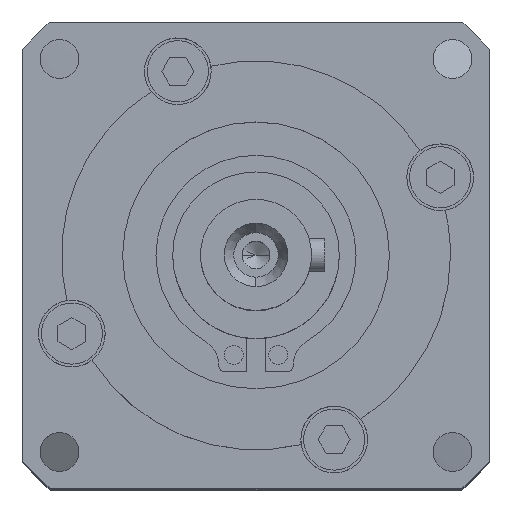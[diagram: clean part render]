
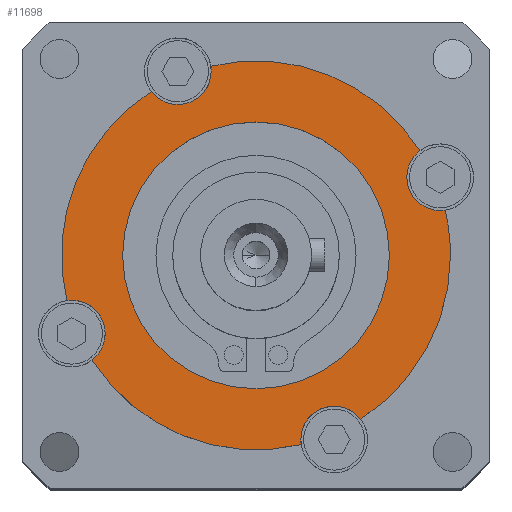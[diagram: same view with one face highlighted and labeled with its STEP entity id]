
A CAD part, top view. The second image highlights one B-rep face of the part: STEP entity #11698.
In plain terms, the highlighted planar face has unit normal (0, 0, 1).
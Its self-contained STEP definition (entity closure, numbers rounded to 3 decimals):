
#320 = DIRECTION ( 'NONE',  ( 0., 0., -1. ) ) ;
#1158 = DIRECTION ( 'NONE',  ( 1., 0., 0. ) ) ;
#1168 = EDGE_CURVE ( 'NONE', #11699, #7684, #3636, .T. ) ;
#1185 = DIRECTION ( 'NONE',  ( 0., 0., -1. ) ) ;
#1214 = CARTESIAN_POINT ( 'NONE',  ( 0., 0., 0. ) ) ;
#1428 = AXIS2_PLACEMENT_3D ( 'NONE', #23193, #11641, #25038 ) ;
#1882 = DIRECTION ( 'NONE',  ( 0., 0., 1. ) ) ;
#1905 = VERTEX_POINT ( 'NONE', #3082 ) ;
#2142 = ORIENTED_EDGE ( 'NONE', *, *, #22773, .T. ) ;
#2365 = EDGE_CURVE ( 'NONE', #15420, #23116, #24178, .T. ) ;
#2667 = CIRCLE ( 'NONE', #19940, 3. ) ;
#3082 = CARTESIAN_POINT ( 'NONE',  ( -12., 0., 0. ) ) ;
#3301 = DIRECTION ( 'NONE',  ( 1., 0., 0. ) ) ;
#3366 = DIRECTION ( 'NONE',  ( 0., 0., -1. ) ) ;
#3391 = CARTESIAN_POINT ( 'NONE',  ( 0., 0., 0. ) ) ;
#3636 = CIRCLE ( 'NONE', #11657, 17.5 ) ;
#3810 = PLANE ( 'NONE',  #19667 ) ;
#4169 = FACE_BOUND ( 'NONE', #16544, .T. ) ;
#4311 = DIRECTION ( 'NONE',  ( 0., 0., -1. ) ) ;
#5143 = CARTESIAN_POINT ( 'NONE',  ( 13.569, 7.033, 0. ) ) ;
#5252 = CARTESIAN_POINT ( 'NONE',  ( 0., 0., 0. ) ) ;
#5738 = EDGE_CURVE ( 'NONE', #15420, #7414, #22810, .T. ) ;
#6340 = VERTEX_POINT ( 'NONE', #22666 ) ;
#6440 = DIRECTION ( 'NONE',  ( 0., 0., -1. ) ) ;
#6610 = VERTEX_POINT ( 'NONE', #16170 ) ;
#7111 = VERTEX_POINT ( 'NONE', #5143 ) ;
#7198 = DIRECTION ( 'NONE',  ( 1., 0., 0. ) ) ;
#7414 = VERTEX_POINT ( 'NONE', #16133 ) ;
#7424 = ORIENTED_EDGE ( 'NONE', *, *, #13361, .T. ) ;
#7638 = VERTEX_POINT ( 'NONE', #20872 ) ;
#7684 = VERTEX_POINT ( 'NONE', #11284 ) ;
#8408 = CARTESIAN_POINT ( 'NONE',  ( -16.569, -7.033, 0. ) ) ;
#8702 = ORIENTED_EDGE ( 'NONE', *, *, #19033, .F. ) ;
#8731 = DIRECTION ( 'NONE',  ( 0., 0., 1. ) ) ;
#8773 = FACE_OUTER_BOUND ( 'NONE', #9087, .T. ) ;
#9087 = EDGE_LOOP ( 'NONE', ( #19882, #11726, #16831, #8702, #13914, #9401, #16707, #22036, #19063, #2142, #11414, #23018, #7424 ) ) ;
#9152 = CARTESIAN_POINT ( 'NONE',  ( -16.569, -7.033, 0. ) ) ;
#9395 = CARTESIAN_POINT ( 'NONE',  ( -4.033, 16.569, 0. ) ) ;
#9401 = ORIENTED_EDGE ( 'NONE', *, *, #24992, .T. ) ;
#9665 = DIRECTION ( 'NONE',  ( 0., 0., -1. ) ) ;
#9767 = CARTESIAN_POINT ( 'NONE',  ( 0., 12., 0. ) ) ;
#9786 = AXIS2_PLACEMENT_3D ( 'NONE', #10593, #24083, #12635 ) ;
#10072 = CIRCLE ( 'NONE', #12674, 3. ) ;
#10162 = ORIENTED_EDGE ( 'NONE', *, *, #15616, .F. ) ;
#10175 = DIRECTION ( 'NONE',  ( -1., 0., 0. ) ) ;
#10260 = DIRECTION ( 'NONE',  ( 0., 0., -1. ) ) ;
#10290 = CARTESIAN_POINT ( 'NONE',  ( -7.033, 16.569, 0. ) ) ;
#10340 = AXIS2_PLACEMENT_3D ( 'NONE', #12035, #320, #14036 ) ;
#10359 = CIRCLE ( 'NONE', #16669, 3. ) ;
#10364 = DIRECTION ( 'NONE',  ( -1., 0., 0. ) ) ;
#10489 = AXIS2_PLACEMENT_3D ( 'NONE', #5252, #18977, #7198 ) ;
#10593 = CARTESIAN_POINT ( 'NONE',  ( 7.033, -16.569, 0. ) ) ;
#10824 = CARTESIAN_POINT ( 'NONE',  ( 16.569, 7.033, 0. ) ) ;
#11118 = DIRECTION ( 'NONE',  ( -1., 0., 0. ) ) ;
#11284 = CARTESIAN_POINT ( 'NONE',  ( -9.418, 14.749, 0. ) ) ;
#11414 = ORIENTED_EDGE ( 'NONE', *, *, #5738, .F. ) ;
#11641 = DIRECTION ( 'NONE',  ( 0., 0., -1. ) ) ;
#11657 = AXIS2_PLACEMENT_3D ( 'NONE', #1214, #1185, #1158 ) ;
#11665 = CIRCLE ( 'NONE', #1428, 17.5 ) ;
#11686 = CARTESIAN_POINT ( 'NONE',  ( -17.021, -4.067, 0. ) ) ;
#11698 = ADVANCED_FACE ( 'NONE', ( #8773, #4169 ), #3810, .F. ) ;
#11699 = VERTEX_POINT ( 'NONE', #11686 ) ;
#11726 = ORIENTED_EDGE ( 'NONE', *, *, #13724, .T. ) ;
#11777 = DIRECTION ( 'NONE',  ( -1., 0., 0. ) ) ;
#11899 = CIRCLE ( 'NONE', #23020, 3. ) ;
#12035 = CARTESIAN_POINT ( 'NONE',  ( 7.033, -16.569, 0. ) ) ;
#12350 = EDGE_CURVE ( 'NONE', #6340, #1905, #22655, .T. ) ;
#12635 = DIRECTION ( 'NONE',  ( -1., 0., 0. ) ) ;
#12674 = AXIS2_PLACEMENT_3D ( 'NONE', #18232, #6440, #20112 ) ;
#12873 = EDGE_CURVE ( 'NONE', #21390, #24797, #21311, .T. ) ;
#13171 = CARTESIAN_POINT ( 'NONE',  ( 17.5, 0., 0. ) ) ;
#13264 = AXIS2_PLACEMENT_3D ( 'NONE', #13666, #1882, #15605 ) ;
#13361 = EDGE_CURVE ( 'NONE', #23116, #7684, #11899, .T. ) ;
#13666 = CARTESIAN_POINT ( 'NONE',  ( 0., 0., 0. ) ) ;
#13724 = EDGE_CURVE ( 'NONE', #11699, #24890, #2667, .T. ) ;
#13914 = ORIENTED_EDGE ( 'NONE', *, *, #15170, .T. ) ;
#14036 = DIRECTION ( 'NONE',  ( -1., 0., 0. ) ) ;
#14242 = ORIENTED_EDGE ( 'NONE', *, *, #12350, .F. ) ;
#14392 = AXIS2_PLACEMENT_3D ( 'NONE', #10290, #10260, #10175 ) ;
#14528 = VERTEX_POINT ( 'NONE', #25019 ) ;
#14657 = EDGE_CURVE ( 'NONE', #21390, #7111, #10072, .T. ) ;
#14841 = EDGE_CURVE ( 'NONE', #24797, #14528, #20743, .T. ) ;
#14856 = VERTEX_POINT ( 'NONE', #14983 ) ;
#14983 = CARTESIAN_POINT ( 'NONE',  ( 4.033, -16.569, 0. ) ) ;
#15170 = EDGE_CURVE ( 'NONE', #7638, #14856, #19842, .T. ) ;
#15240 = EDGE_CURVE ( 'NONE', #24890, #6610, #10359, .T. ) ;
#15420 = VERTEX_POINT ( 'NONE', #17349 ) ;
#15605 = DIRECTION ( 'NONE',  ( 1., 0., 0. ) ) ;
#15616 = EDGE_CURVE ( 'NONE', #1905, #6340, #19497, .T. ) ;
#16091 = CARTESIAN_POINT ( 'NONE',  ( 0., 0., 0. ) ) ;
#16133 = CARTESIAN_POINT ( 'NONE',  ( 14.749, 9.418, 0. ) ) ;
#16170 = CARTESIAN_POINT ( 'NONE',  ( -14.749, -9.418, 0. ) ) ;
#16544 = EDGE_LOOP ( 'NONE', ( #14242, #10162 ) ) ;
#16669 = AXIS2_PLACEMENT_3D ( 'NONE', #8408, #21978, #10364 ) ;
#16707 = ORIENTED_EDGE ( 'NONE', *, *, #14841, .F. ) ;
#16831 = ORIENTED_EDGE ( 'NONE', *, *, #15240, .T. ) ;
#17349 = CARTESIAN_POINT ( 'NONE',  ( -4.067, 17.021, 0. ) ) ;
#17695 = AXIS2_PLACEMENT_3D ( 'NONE', #3391, #3366, #3301 ) ;
#18058 = DIRECTION ( 'NONE',  ( 1., 0., 0. ) ) ;
#18232 = CARTESIAN_POINT ( 'NONE',  ( 16.569, 7.033, 0. ) ) ;
#18977 = DIRECTION ( 'NONE',  ( 0., 0., -1. ) ) ;
#19033 = EDGE_CURVE ( 'NONE', #7638, #6610, #11665, .T. ) ;
#19063 = ORIENTED_EDGE ( 'NONE', *, *, #14657, .T. ) ;
#19497 = CIRCLE ( 'NONE', #13264, 12. ) ;
#19667 = AXIS2_PLACEMENT_3D ( 'NONE', #9767, #23308, #11777 ) ;
#19842 = CIRCLE ( 'NONE', #10340, 3. ) ;
#19882 = ORIENTED_EDGE ( 'NONE', *, *, #1168, .F. ) ;
#19940 = AXIS2_PLACEMENT_3D ( 'NONE', #9152, #22702, #11118 ) ;
#20112 = DIRECTION ( 'NONE',  ( -1., 0., 0. ) ) ;
#20386 = CARTESIAN_POINT ( 'NONE',  ( 0., 0., 0. ) ) ;
#20485 = CIRCLE ( 'NONE', #9786, 3. ) ;
#20743 = CIRCLE ( 'NONE', #10489, 17.5 ) ;
#20872 = CARTESIAN_POINT ( 'NONE',  ( 4.067, -17.021, 0. ) ) ;
#20924 = AXIS2_PLACEMENT_3D ( 'NONE', #20386, #8731, #22276 ) ;
#21072 = CARTESIAN_POINT ( 'NONE',  ( -13.569, -7.033, 0. ) ) ;
#21311 = CIRCLE ( 'NONE', #24093, 17.5 ) ;
#21312 = CARTESIAN_POINT ( 'NONE',  ( -7.033, 16.569, 0. ) ) ;
#21390 = VERTEX_POINT ( 'NONE', #24226 ) ;
#21978 = DIRECTION ( 'NONE',  ( 0., 0., -1. ) ) ;
#22036 = ORIENTED_EDGE ( 'NONE', *, *, #12873, .F. ) ;
#22276 = DIRECTION ( 'NONE',  ( 1., 0., 0. ) ) ;
#22655 = CIRCLE ( 'NONE', #20924, 12. ) ;
#22666 = CARTESIAN_POINT ( 'NONE',  ( 12., 0., 0. ) ) ;
#22702 = DIRECTION ( 'NONE',  ( 0., 0., -1. ) ) ;
#22773 = EDGE_CURVE ( 'NONE', #7111, #7414, #23585, .T. ) ;
#22809 = DIRECTION ( 'NONE',  ( -1., 0., 0. ) ) ;
#22810 = CIRCLE ( 'NONE', #17695, 17.5 ) ;
#23018 = ORIENTED_EDGE ( 'NONE', *, *, #2365, .T. ) ;
#23020 = AXIS2_PLACEMENT_3D ( 'NONE', #21312, #9665, #23213 ) ;
#23116 = VERTEX_POINT ( 'NONE', #9395 ) ;
#23193 = CARTESIAN_POINT ( 'NONE',  ( 0., 0., 0. ) ) ;
#23213 = DIRECTION ( 'NONE',  ( -1., 0., 0. ) ) ;
#23218 = AXIS2_PLACEMENT_3D ( 'NONE', #10824, #24293, #22809 ) ;
#23308 = DIRECTION ( 'NONE',  ( 0., 0., -1. ) ) ;
#23585 = CIRCLE ( 'NONE', #23218, 3. ) ;
#24083 = DIRECTION ( 'NONE',  ( 0., 0., -1. ) ) ;
#24093 = AXIS2_PLACEMENT_3D ( 'NONE', #16091, #4311, #18058 ) ;
#24178 = CIRCLE ( 'NONE', #14392, 3. ) ;
#24226 = CARTESIAN_POINT ( 'NONE',  ( 17.021, 4.067, 0. ) ) ;
#24293 = DIRECTION ( 'NONE',  ( 0., 0., -1. ) ) ;
#24797 = VERTEX_POINT ( 'NONE', #13171 ) ;
#24890 = VERTEX_POINT ( 'NONE', #21072 ) ;
#24992 = EDGE_CURVE ( 'NONE', #14856, #14528, #20485, .T. ) ;
#25019 = CARTESIAN_POINT ( 'NONE',  ( 9.418, -14.749, 0. ) ) ;
#25038 = DIRECTION ( 'NONE',  ( 1., 0., 0. ) ) ;
